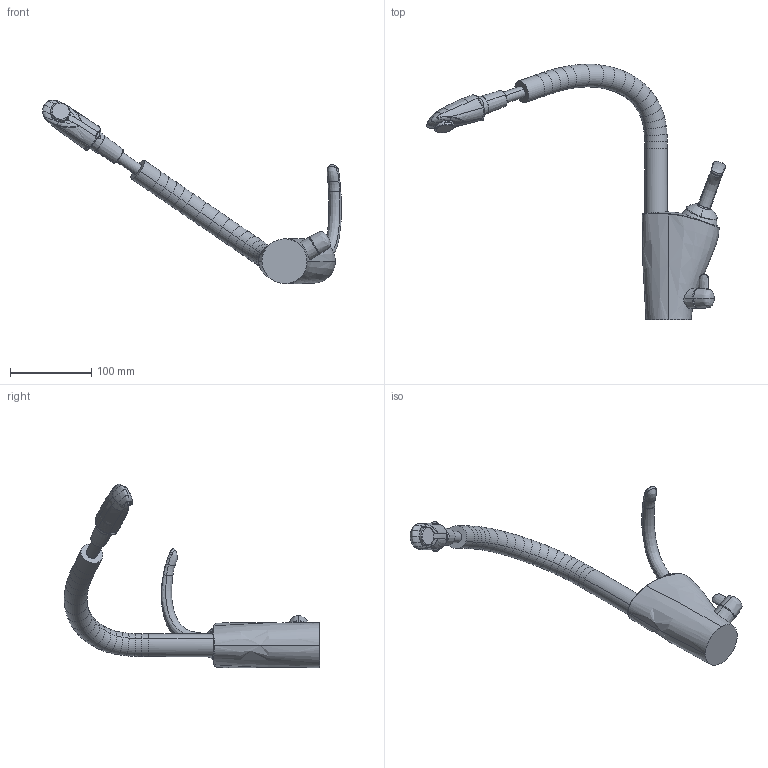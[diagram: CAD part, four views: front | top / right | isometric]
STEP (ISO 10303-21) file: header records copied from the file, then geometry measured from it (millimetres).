
FILE_DESCRIPTION (( 'STEP AP203' ), '1' );
FILE_NAME ('5932+5932F.STEP', '2018-07-10T10:12:36', ( '' ), ( '' ), 'SwSTEP 2.0', 'SolidWorks 2016', '' );
FILE_SCHEMA (( 'CONFIG_CONTROL_DESIGN' ));
Length unit declared in the file: millimetre
Products named in the file (1): 5932+5932F
Bounding box: 367.86 x 314.44 x 226.2 mm (x, y, z)
Volume: 769627.7 mm3; surface area: 85430.3 mm2
Topology: 1 solids, 1 shells, 184 faces, 434 edges, 256 vertices
Faces by surface type: bspline 90, torus 48, plane 17, cylinder 15, cone 10, sphere 4
Entity records: 27789 total; most frequent: CARTESIAN_POINT 24219, ORIENTED_EDGE 848, DIRECTION 545, EDGE_CURVE 424, AXIS2_PLACEMENT_3D 255, VERTEX_POINT 255, B_SPLINE_CURVE_WITH_KNOTS 219, EDGE_LOOP 197
